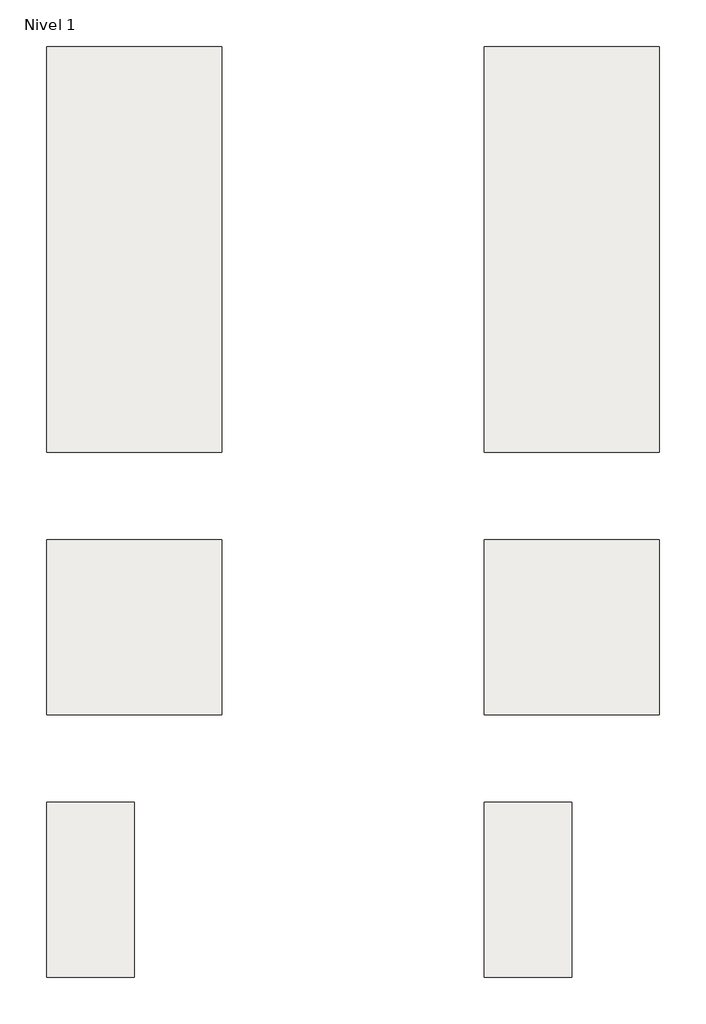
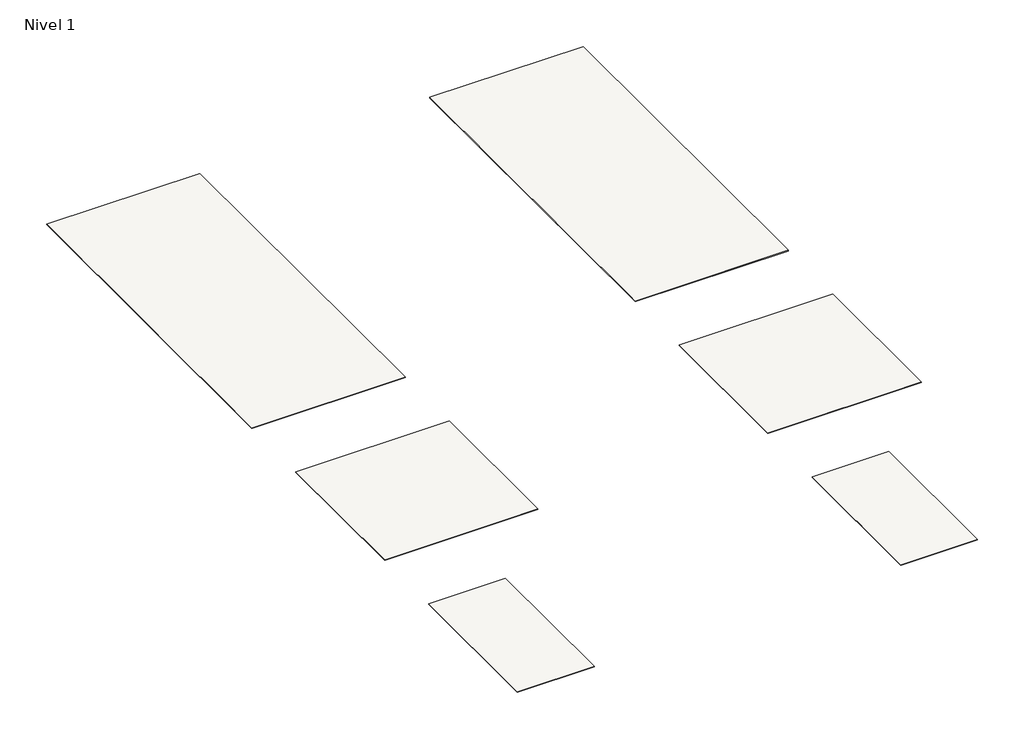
# One storey: 6 slabs.
"""IFC4 building model written with IfcOpenShell, lengths in millimetres."""

import ifcopenshell
import ifcopenshell.guid

model = None  # the IFC model being written
_history = None  # IfcOwnerHistory: only IFC2X3 demands one
_inside = {}  # id of a spatial element -> (the spatial element, [elements in it])
_under = {}  # id of a project, library or spatial element -> (it, [spatial elements below it])
_declared = {}  # id of a project -> (the project, [libraries it declares])
_typed = {}  # id of a type object -> (the type object, [elements of that type])
_made_of = {}  # id of a material, layer set ... -> (it, [elements and type objects made of it])


def new_model(schema):
    """Start an empty IFC model of exactly this schema.

    Asked for "IFC4X3", IfcOpenShell would pick the latest addendum, in which some entities
    have other attributes; the version numbers below select the first issue.
    IFC2X3 requires an IfcOwnerHistory on every rooted entity: one is made here for all.
    """
    global model, _history
    if schema == "IFC4X3":
        model = ifcopenshell.file(schema_version=(4, 3, 0, 0))
    else:
        model = ifcopenshell.file(schema=schema)
    _inside.clear()
    _under.clear()
    _declared.clear()
    _typed.clear()
    _made_of.clear()
    _history = None
    if model.schema == "IFC2X3":
        org = make("IfcOrganization", Name="unknown")
        user = make(
            "IfcPersonAndOrganization",
            ThePerson=make("IfcPerson", FamilyName="unknown"),
            TheOrganization=org,
        )
        app = make(
            "IfcApplication",
            ApplicationDeveloper=org,
            Version="unknown",
            ApplicationFullName="unknown",
            ApplicationIdentifier="unknown",
        )
        _history = make(
            "IfcOwnerHistory",
            OwningUser=user,
            OwningApplication=app,
            ChangeAction="ADDED",
            CreationDate=0,
        )
    return model


def make(cls, **values):
    """One entity of the class cls with the attributes given. An attribute that is None is left unset."""
    return model.create_entity(
        cls, **{name: value for name, value in values.items() if value is not None}
    )


def rooted(cls, **values):
    """An entity with a GlobalId (a new one), such as an element, a storey or a relation."""
    return make(cls, GlobalId=ifcopenshell.guid.new(), OwnerHistory=_history, **values)


def si_unit(unit_type, name, prefix=None):
    """IfcSIUnit, for example si_unit("LENGTHUNIT", "METRE", prefix="MILLI")."""
    return make("IfcSIUnit", UnitType=unit_type, Prefix=prefix, Name=name)


def assignment(units):
    """IfcUnitAssignment: the units of a project."""
    return None if units is None else make("IfcUnitAssignment", Units=units)


def point(xyz):
    """IfcCartesianPoint."""
    return None if xyz is None else make("IfcCartesianPoint", Coordinates=xyz)


def direction(xyz):
    """IfcDirection."""
    return None if xyz is None else make("IfcDirection", DirectionRatios=xyz)


def frame(location, z_axis=None, x_axis=None):
    """IfcAxis2Placement3D, a coordinate frame: its origin and axes. An axis left out is left unset."""
    return make(
        "IfcAxis2Placement3D",
        Location=point(location),
        Axis=direction(z_axis),
        RefDirection=direction(x_axis),
    )


def origin():
    """The frame at (0, 0, 0) with its axes left unset."""
    return frame((0.0, 0.0, 0.0))


def place(relative_to, where):
    """IfcLocalPlacement: puts the frame where relative to a parent placement (None: the world)."""
    return make(
        "IfcLocalPlacement", PlacementRelTo=relative_to, RelativePlacement=where
    )


def context(
    kind, dimensions, precision=None, world=None, true_north=None, identifier=None
):
    """IfcGeometricRepresentationContext, for example the 3D "Model" context."""
    return make(
        "IfcGeometricRepresentationContext",
        ContextIdentifier=identifier,
        ContextType=kind,
        CoordinateSpaceDimension=dimensions,
        Precision=precision,
        WorldCoordinateSystem=world,
        TrueNorth=true_north,
    )


def project(units=None, contexts=None):
    """IfcProject with its units and contexts."""
    return rooted(
        "IfcProject",
        Name="project",
        RepresentationContexts=contexts,
        UnitsInContext=assignment(units),
    )


def spatial(cls, under=None, at=None, **own):
    """A site, building, storey or space (cls), placed at a placement, below another one or the project."""
    s = rooted(cls, ObjectPlacement=at, **own)
    if under is not None:
        _under.setdefault(under.id(), (under, []))[1].append(s)
    return s


def polyline(points):
    """IfcPolyline through the points."""
    return make("IfcPolyline", Points=[point(p) for p in points])


def outline(outer, holes=None, kind="AREA"):
    """IfcArbitraryClosedProfileDef: a profile drawn as a closed curve; with holes, ...WithVoids."""
    if holes is None:
        return make("IfcArbitraryClosedProfileDef", ProfileType=kind, OuterCurve=outer)
    return make(
        "IfcArbitraryProfileDefWithVoids",
        ProfileType=kind,
        OuterCurve=outer,
        InnerCurves=holes,
    )


def extrude(swept, where, along, depth):
    """IfcExtrudedAreaSolid: the profile swept, set in the frame where, extruded along a direction by depth."""
    return make(
        "IfcExtrudedAreaSolid",
        SweptArea=swept,
        Position=where,
        ExtrudedDirection=direction(along),
        Depth=depth,
    )


def shape(context_of_items, identifier, shape_type, items):
    """IfcShapeRepresentation: the items that make up one representation, for example the "Body"."""
    return make(
        "IfcShapeRepresentation",
        ContextOfItems=context_of_items,
        RepresentationIdentifier=identifier,
        RepresentationType=shape_type,
        Items=items,
    )


def made_of(thing, what):
    """Note that an element or type object is made of a material, layer set ...; save() writes the relation."""
    if what is not None:
        _made_of.setdefault(what.id(), (what, []))[1].append(thing)
    return thing


def element(
    cls,
    number,
    at=None,
    inside=None,
    cuts=None,
    type_object=None,
    material=None,
    context=None,
    identifier="Body",
    shape_type=None,
    held_by="IfcProductDefinitionShape",
    body=None,
    shapes=None,
    **own,
):
    """One element of the class cls, such as IfcWall. Its Tag is "e" and its number.

    at: its placement. inside: the storey or other place that contains it. cuts: it is an
    opening in that element (IfcRelVoidsElement). A single representation is given by context,
    identifier, shape_type and body (its items); several are given by shapes. held_by: the class
    of the entity that holds the representations. save() writes the other relations.
    """
    e = rooted(cls, Tag="e%d" % number, ObjectPlacement=at, **own)
    if body is not None:
        shapes = [shape(context, identifier, shape_type, body)]
    if shapes is not None:
        e.Representation = make(held_by, Representations=shapes)
    if inside is not None:
        _inside.setdefault(inside.id(), (inside, []))[1].append(e)
    if cuts is not None:
        rooted(
            "IfcRelVoidsElement", RelatingBuildingElement=cuts, RelatedOpeningElement=e
        )
    if type_object is not None:
        _typed.setdefault(type_object.id(), (type_object, []))[1].append(e)
    return made_of(e, material)


def aggregate(whole, parts):
    """IfcRelAggregates: a whole, such as a stair, and the parts it consists of."""
    return rooted("IfcRelAggregates", RelatingObject=whole, RelatedObjects=parts)


def save(model, path):
    """Write the relations noted so far, then the file.

    IfcRelAggregates (storeys below a building ...), IfcRelContainedInSpatialStructure (elements
    in a storey), IfcRelDefinesByType, IfcRelAssociatesMaterial and IfcRelDeclares: one each for
    every whole, place, type object, material and project.
    """
    for whole, parts in _under.values():
        aggregate(whole, parts)
    for where, things in _inside.values():
        rooted(
            "IfcRelContainedInSpatialStructure",
            RelatedElements=things,
            RelatingStructure=where,
        )
    for kind, things in _typed.values():
        rooted("IfcRelDefinesByType", RelatedObjects=things, RelatingType=kind)
    for what, things in _made_of.values():
        rooted("IfcRelAssociatesMaterial", RelatedObjects=things, RelatingMaterial=what)
    for by, libraries in _declared.values():
        rooted("IfcRelDeclares", RelatingContext=by, RelatedDefinitions=libraries)
    model.write(path)


model = new_model("IFC4")

# Units and contexts
model_context = context("Model", 3, world=origin())
ifc_project = project(units=[si_unit("LENGTHUNIT", "METRE", prefix="MILLI")], contexts=[model_context])

# Site, building, storey
site = spatial("IfcSite", under=ifc_project)
building = spatial("IfcBuilding", under=site)
storey = spatial("IfcBuildingStorey", under=building, Name="Nivel 1", Elevation=0.0)

# Slabs
placement = place(None, origin())
element("IfcSlab", 1, ObjectType="Macchia Vecchia 120X278 5,6 Natural", at=placement, inside=storey, context=model_context, shape_type="SweptSolid", body=[
    extrude(outline(polyline([(0.0, 2780.0), (1200.0, 2780.0), (1200.0, 0.0), (0.0, 0.0), (0.0, 2780.0)])), frame((0.0, 0.0, -5.6), z_axis=(0.0, 0.0, 1.0), x_axis=(1.0, 0.0, 0.0)), (0.0, 0.0, 1.0), 5.6),
])
element("IfcSlab", 2, ObjectType="Macchia Vecchia 120X278 5,6 Pul", at=placement, inside=storey, context=model_context, shape_type="SweptSolid", body=[
    extrude(outline(polyline([(3000.0, 2780.0), (4200.0, 2780.0), (4200.0, 0.0), (3000.0, 0.0), (3000.0, 2780.0)])), frame((0.0, 0.0, -5.6), z_axis=(0.0, 0.0, 1.0), x_axis=(1.0, 0.0, 0.0)), (0.0, 0.0, 1.0), 5.6),
])
element("IfcSlab", 3, ObjectType="Macchia Vecchia 120X120 5,6 Natural", at=placement, inside=storey, context=model_context, shape_type="SweptSolid", body=[
    extrude(outline(polyline([(0.0, -600.0), (1200.0, -600.0), (1200.0, -1800.0), (0.0, -1800.0), (0.0, -600.0)])), frame((0.0, 0.0, -5.6), z_axis=(0.0, 0.0, 1.0), x_axis=(1.0, 0.0, 0.0)), (0.0, 0.0, 1.0), 5.6),
])
element("IfcSlab", 4, ObjectType="Macchia Vecchia 120X120 5,6 Pul", at=placement, inside=storey, context=model_context, shape_type="SweptSolid", body=[
    extrude(outline(polyline([(3000.0, -600.0), (4200.0, -600.0), (4200.0, -1800.0), (3000.0, -1800.0), (3000.0, -600.0)])), frame((0.0, 0.0, -5.6), z_axis=(0.0, 0.0, 1.0), x_axis=(1.0, 0.0, 0.0)), (0.0, 0.0, 1.0), 5.6),
])
element("IfcSlab", 5, ObjectType="Macchia Vecchia 60X120 5,6 Natural", at=placement, inside=storey, context=model_context, shape_type="SweptSolid", body=[
    extrude(outline(polyline([(0.0, -2400.0), (600.0, -2400.0), (600.0, -3600.0), (0.0, -3600.0), (0.0, -2400.0)])), frame((0.0, 0.0, -5.6), z_axis=(0.0, 0.0, 1.0), x_axis=(1.0, 0.0, 0.0)), (0.0, 0.0, 1.0), 5.6),
])
element("IfcSlab", 6, ObjectType="Macchia Vecchia 60X120 5,6 Pul", at=placement, inside=storey, context=model_context, shape_type="SweptSolid", body=[
    extrude(outline(polyline([(3000.0, -2400.0), (3600.0, -2400.0), (3600.0, -3600.0), (3000.0, -3600.0), (3000.0, -2400.0)])), frame((0.0, 0.0, -5.6), z_axis=(0.0, 0.0, 1.0), x_axis=(1.0, 0.0, 0.0)), (0.0, 0.0, 1.0), 5.6),
])

save(model, "model.ifc")
